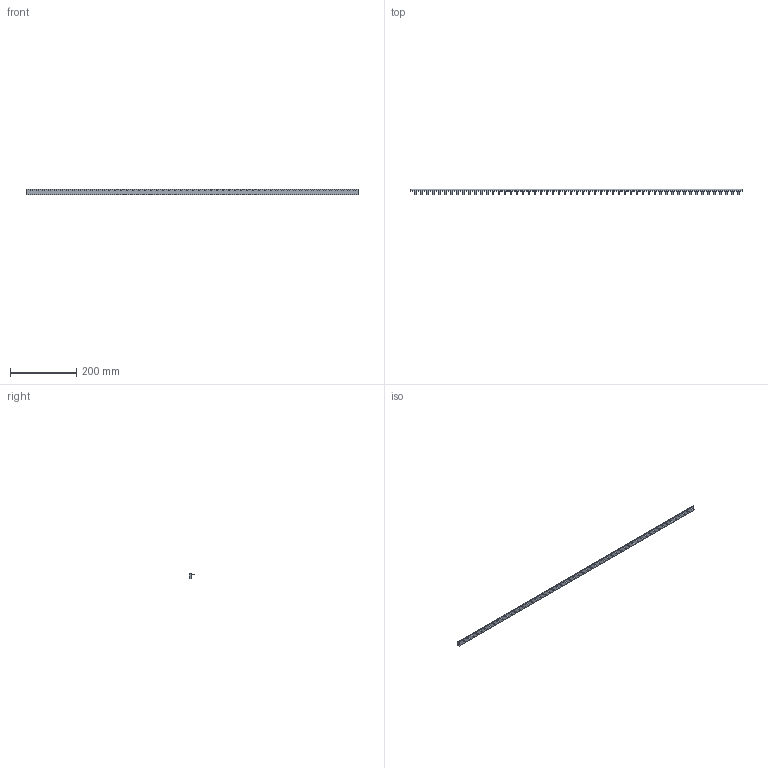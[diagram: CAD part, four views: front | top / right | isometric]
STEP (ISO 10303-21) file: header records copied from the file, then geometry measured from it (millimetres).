
FILE_DESCRIPTION (( 'STEP AP214' ), '1' );
FILE_NAME ('Øèíà 1P 1000.STEP', '2024-03-07T06:23:11', ( '' ), ( '' ), 'SwSTEP 2.0', 'SolidWorks 2018', '' );
FILE_SCHEMA (( 'AUTOMOTIVE_DESIGN' ));
Length unit declared in the file: millimetre
Products named in the file (1): 嵙縺 1P 1000
Bounding box: 1000 x 15.9 x 15.64 mm (x, y, z)
Volume: 78823.5 mm3; surface area: 46097.3 mm2
Topology: 1 solids, 1 shells, 282 faces, 675 edges, 450 vertices
Faces by surface type: plane 280, cylinder 2
Entity records: 8037 total; most frequent: CARTESIAN_POINT 1408, ORIENTED_EDGE 1350, DIRECTION 1245, EDGE_CURVE 675, LINE 671, VECTOR 671, VERTEX_POINT 450, EDGE_LOOP 337
